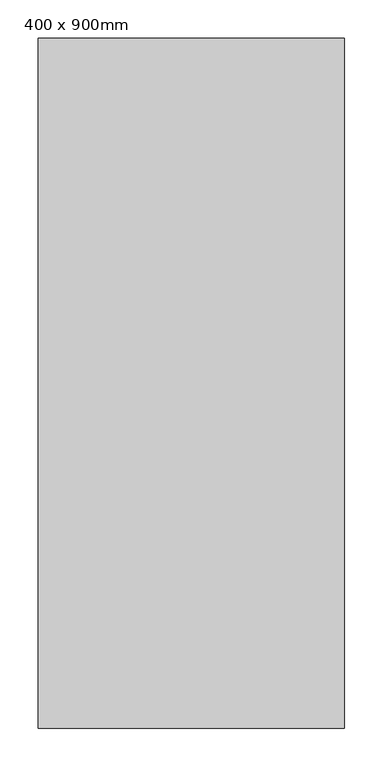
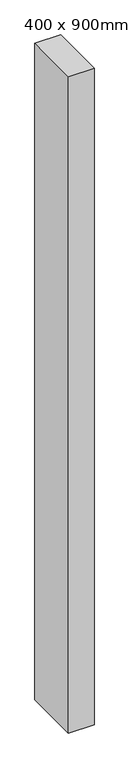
"""IFC4 building model written with IfcOpenShell, lengths in millimetres: column geometry, 混凝土 - 矩形 - 柱 : 400 x 900mm."""

from ifc_helpers import new_model, si_unit, origin, origin_with_axes, place, context, project, spatial, polyline, outline, extrude, source, transform, mapped, element, save


def column_400_x_900mm_c4ad373b(model_context):
    return source(origin(), model_context, "Body", "SweptSolid", [
        extrude(outline(polyline([(200.0, 450.0), (200.0, -450.0), (-200.0, -450.0), (-200.0, 450.0), (200.0, 450.0)])), origin_with_axes(), (0.0, 0.0, 1.0), 10800.0),
    ])


if __name__ == "__main__":
    model = new_model("IFC4")
    model_context = context("Model", 3, world=origin())
    ifc_project = project(units=[si_unit("LENGTHUNIT", "METRE", prefix="MILLI")], contexts=[model_context])
    site = spatial("IfcSite", under=ifc_project)
    building = spatial("IfcBuilding", under=site)
    placement = place(None, origin())
    column_400_x_900mm_shape = column_400_x_900mm_c4ad373b(model_context)
    element("IfcColumn", 1, ObjectType="混凝土 - 矩形 - 柱 : 400 x 900mm", at=placement, inside=building, context=model_context, shape_type="MappedRepresentation", body=[
        mapped(column_400_x_900mm_shape, transform((0.0, 0.0, 0.0), x_axis=(1.0, 0.0, 0.0), y_axis=(0.0, 1.0, 0.0), z_axis=(0.0, 0.0, 1.0))),
    ])
    save(model, "model.ifc")
